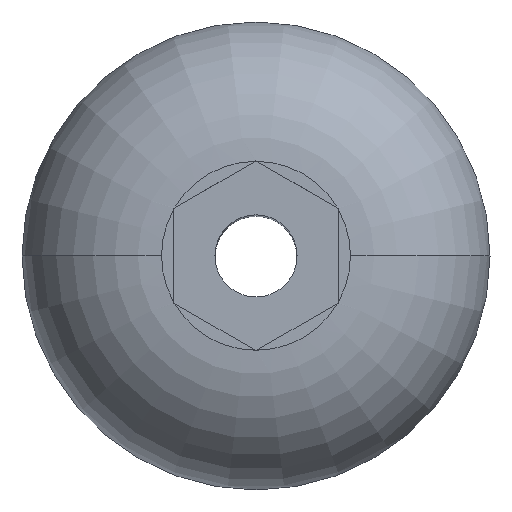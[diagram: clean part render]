
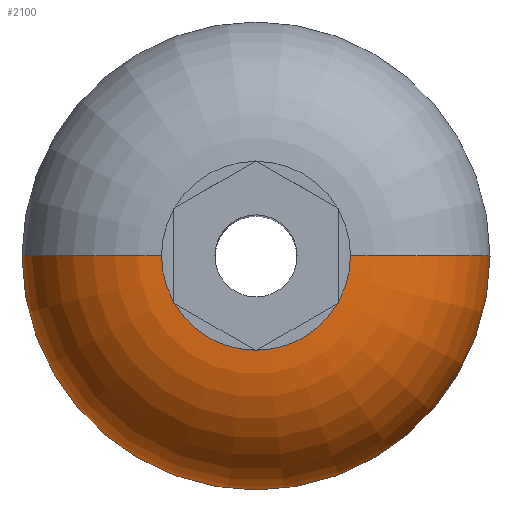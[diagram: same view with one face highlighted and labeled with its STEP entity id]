
A CAD part, top view. The second image highlights one B-rep face of the part: STEP entity #2100.
In plain terms, the highlighted toroidal (fillet/blend) face has major radius 1.151 mm and minor radius 1.7 mm.
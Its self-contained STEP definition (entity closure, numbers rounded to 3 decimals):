
#14 = CARTESIAN_POINT ( 'NONE',  ( 0.993, -0.581, 1.65 ) ) ;
#26 = EDGE_CURVE ( 'NONE', #71, #216, #555, .T. ) ;
#27 = B_SPLINE_CURVE_WITH_KNOTS ( 'NONE', 3,
 ( #1641, #1660, #47, #945, #537 ),
 .UNSPECIFIED., .F., .F.,
 ( 4, 1, 4 ),
 ( 0.014, 0.014, 0.014 ),
 .UNSPECIFIED. ) ;
#30 = ORIENTED_EDGE ( 'NONE', *, *, #2485, .F. ) ;
#32 = VERTEX_POINT ( 'NONE', #1867 ) ;
#42 = EDGE_CURVE ( 'NONE', #235, #1964, #27, .T. ) ;
#46 = CARTESIAN_POINT ( 'NONE',  ( -2.85, 0., 0. ) ) ;
#47 = CARTESIAN_POINT ( 'NONE',  ( -1., -0.573, 1.65 ) ) ;
#63 = DIRECTION ( 'NONE',  ( 1., 0., 0. ) ) ;
#65 = CARTESIAN_POINT ( 'NONE',  ( 0., -1.155, 1.65 ) ) ;
#71 = VERTEX_POINT ( 'NONE', #46 ) ;
#78 = CIRCLE ( 'NONE', #2306, 2.85 ) ;
#113 = DIRECTION ( 'NONE',  ( 1., 0., 0. ) ) ;
#130 = DIRECTION ( 'NONE',  ( 0.866, 0.5, 0. ) ) ;
#153 = ORIENTED_EDGE ( 'NONE', *, *, #1469, .T. ) ;
#171 = AXIS2_PLACEMENT_3D ( 'NONE', #789, #1586, #985 ) ;
#216 = VERTEX_POINT ( 'NONE', #2419 ) ;
#226 = CARTESIAN_POINT ( 'NONE',  ( 0., 0., 1.65 ) ) ;
#235 = VERTEX_POINT ( 'NONE', #1380 ) ;
#239 = CIRCLE ( 'NONE', #2375, 1.151 ) ;
#246 = CARTESIAN_POINT ( 'NONE',  ( 0., 0., 1.65 ) ) ;
#325 = VERTEX_POINT ( 'NONE', #1050 ) ;
#349 = VECTOR ( 'NONE', #130, 1000. ) ;
#364 = AXIS2_PLACEMENT_3D ( 'NONE', #226, #1826, #63 ) ;
#400 = AXIS2_PLACEMENT_3D ( 'NONE', #2151, #1155, #113 ) ;
#441 = EDGE_CURVE ( 'NONE', #216, #1964, #1771, .T. ) ;
#445 = CARTESIAN_POINT ( 'NONE',  ( 0.998, -0.579, 1.65 ) ) ;
#470 = CARTESIAN_POINT ( 'NONE',  ( -0.007, -1.151, 1.65 ) ) ;
#490 = EDGE_LOOP ( 'NONE', ( #2201, #1598, #153, #2258, #913, #1194, #2570, #1570, #877, #600, #30, #2204, #1821 ) ) ;
#494 = CARTESIAN_POINT ( 'NONE',  ( 0.993, -0.581, 1.65 ) ) ;
#495 = CARTESIAN_POINT ( 'NONE',  ( -0.007, -1.151, 1.65 ) ) ;
#537 = CARTESIAN_POINT ( 'NONE',  ( -1., -0.569, 1.65 ) ) ;
#545 = VERTEX_POINT ( 'NONE', #14 ) ;
#555 = CIRCLE ( 'NONE', #1616, 1.7 ) ;
#564 = EDGE_CURVE ( 'NONE', #769, #325, #1491, .T. ) ;
#600 = ORIENTED_EDGE ( 'NONE', *, *, #2002, .F. ) ;
#650 = CARTESIAN_POINT ( 'NONE',  ( 0., 0., -0.05 ) ) ;
#659 = VECTOR ( 'NONE', #1126, 1000. ) ;
#693 = CARTESIAN_POINT ( 'NONE',  ( 0.995, -0.58, 1.65 ) ) ;
#710 = EDGE_CURVE ( 'NONE', #1373, #2322, #1562, .T. ) ;
#724 = CARTESIAN_POINT ( 'NONE',  ( 0., -1.155, 1.65 ) ) ;
#751 = VERTEX_POINT ( 'NONE', #1963 ) ;
#765 = TOROIDAL_SURFACE ( 'NONE', #1721, 1.151, 1.7 ) ;
#769 = VERTEX_POINT ( 'NONE', #936 ) ;
#789 = CARTESIAN_POINT ( 'NONE',  ( 1.151, 0., -0.05 ) ) ;
#855 = CARTESIAN_POINT ( 'NONE',  ( 1., -0.577, 1.65 ) ) ;
#877 = ORIENTED_EDGE ( 'NONE', *, *, #1058, .T. ) ;
#895 = CIRCLE ( 'NONE', #171, 1.7 ) ;
#901 = CARTESIAN_POINT ( 'NONE',  ( 1., -0.577, 1.65 ) ) ;
#913 = ORIENTED_EDGE ( 'NONE', *, *, #564, .F. ) ;
#936 = CARTESIAN_POINT ( 'NONE',  ( 1., -0.577, 1.65 ) ) ;
#945 = CARTESIAN_POINT ( 'NONE',  ( -1., -0.571, 1.65 ) ) ;
#962 = DIRECTION ( 'NONE',  ( 0.866, -0.5, 0. ) ) ;
#985 = DIRECTION ( 'NONE',  ( 0., 0., -1. ) ) ;
#1013 = AXIS2_PLACEMENT_3D ( 'NONE', #246, #2496, #2064 ) ;
#1045 = DIRECTION ( 'NONE',  ( 0., 1., 0. ) ) ;
#1050 = CARTESIAN_POINT ( 'NONE',  ( 1., -0.569, 1.65 ) ) ;
#1058 = EDGE_CURVE ( 'NONE', #1373, #1192, #1449, .T. ) ;
#1088 = CARTESIAN_POINT ( 'NONE',  ( -0.002, -1.153, 1.65 ) ) ;
#1103 = DIRECTION ( 'NONE',  ( 0., 0., 1. ) ) ;
#1104 = DIRECTION ( 'NONE',  ( 1., 0., 0. ) ) ;
#1126 = DIRECTION ( 'NONE',  ( 0., 1., 0. ) ) ;
#1135 = EDGE_CURVE ( 'NONE', #71, #32, #78, .T. ) ;
#1155 = DIRECTION ( 'NONE',  ( 0., 0., 1. ) ) ;
#1192 = VERTEX_POINT ( 'NONE', #495 ) ;
#1194 = ORIENTED_EDGE ( 'NONE', *, *, #2143, .T. ) ;
#1238 = CARTESIAN_POINT ( 'NONE',  ( 0.007, -1.151, 1.65 ) ) ;
#1290 = EDGE_CURVE ( 'NONE', #325, #2622, #1805, .T. ) ;
#1344 = CARTESIAN_POINT ( 'NONE',  ( -1., -0.577, 1.65 ) ) ;
#1373 = VERTEX_POINT ( 'NONE', #1579 ) ;
#1380 = CARTESIAN_POINT ( 'NONE',  ( -1., -0.577, 1.65 ) ) ;
#1449 = B_SPLINE_CURVE_WITH_KNOTS ( 'NONE', 3,
 ( #65, #1088, #1687, #470 ),
 .UNSPECIFIED., .F., .F.,
 ( 4, 4 ),
 ( 0., 0. ),
 .UNSPECIFIED. ) ;
#1456 = CARTESIAN_POINT ( 'NONE',  ( -1.151, 0., -0.05 ) ) ;
#1468 = B_SPLINE_CURVE_WITH_KNOTS ( 'NONE', 3,
 ( #855, #445, #693, #494 ),
 .UNSPECIFIED., .F., .F.,
 ( 4, 4 ),
 ( 0., 0. ),
 .UNSPECIFIED. ) ;
#1469 = EDGE_CURVE ( 'NONE', #32, #2622, #895, .T. ) ;
#1491 = LINE ( 'NONE', #901, #659 ) ;
#1542 = CARTESIAN_POINT ( 'NONE',  ( 0., 0., 1.65 ) ) ;
#1544 = CARTESIAN_POINT ( 'NONE',  ( 0., 0., 0. ) ) ;
#1562 = LINE ( 'NONE', #724, #349 ) ;
#1570 = ORIENTED_EDGE ( 'NONE', *, *, #710, .F. ) ;
#1579 = CARTESIAN_POINT ( 'NONE',  ( 0., -1.155, 1.65 ) ) ;
#1586 = DIRECTION ( 'NONE',  ( 0., -1., 0. ) ) ;
#1598 = ORIENTED_EDGE ( 'NONE', *, *, #1135, .T. ) ;
#1616 = AXIS2_PLACEMENT_3D ( 'NONE', #1456, #1045, #2276 ) ;
#1641 = CARTESIAN_POINT ( 'NONE',  ( -1., -0.577, 1.65 ) ) ;
#1650 = FACE_OUTER_BOUND ( 'NONE', #490, .T. ) ;
#1660 = CARTESIAN_POINT ( 'NONE',  ( -1., -0.576, 1.65 ) ) ;
#1687 = CARTESIAN_POINT ( 'NONE',  ( -0.005, -1.152, 1.65 ) ) ;
#1721 = AXIS2_PLACEMENT_3D ( 'NONE', #650, #2520, #1104 ) ;
#1771 = CIRCLE ( 'NONE', #1013, 1.151 ) ;
#1805 = CIRCLE ( 'NONE', #400, 1.151 ) ;
#1821 = ORIENTED_EDGE ( 'NONE', *, *, #441, .F. ) ;
#1826 = DIRECTION ( 'NONE',  ( 0., 0., 1. ) ) ;
#1867 = CARTESIAN_POINT ( 'NONE',  ( 2.85, 0., 0. ) ) ;
#1889 = VECTOR ( 'NONE', #962, 1000. ) ;
#1952 = DIRECTION ( 'NONE',  ( 1., 0., 0. ) ) ;
#1963 = CARTESIAN_POINT ( 'NONE',  ( -0.993, -0.581, 1.65 ) ) ;
#1964 = VERTEX_POINT ( 'NONE', #2254 ) ;
#2002 = EDGE_CURVE ( 'NONE', #751, #1192, #2606, .T. ) ;
#2020 = CARTESIAN_POINT ( 'NONE',  ( 1.151, 0., 1.65 ) ) ;
#2064 = DIRECTION ( 'NONE',  ( 1., 0., 0. ) ) ;
#2100 = ADVANCED_FACE ( 'NONE', ( #1650 ), #765, .T. ) ;
#2143 = EDGE_CURVE ( 'NONE', #769, #545, #1468, .T. ) ;
#2151 = CARTESIAN_POINT ( 'NONE',  ( 0., 0., 1.65 ) ) ;
#2169 = DIRECTION ( 'NONE',  ( 1., 0., 0. ) ) ;
#2201 = ORIENTED_EDGE ( 'NONE', *, *, #26, .F. ) ;
#2204 = ORIENTED_EDGE ( 'NONE', *, *, #42, .T. ) ;
#2254 = CARTESIAN_POINT ( 'NONE',  ( -1., -0.569, 1.65 ) ) ;
#2258 = ORIENTED_EDGE ( 'NONE', *, *, #1290, .F. ) ;
#2276 = DIRECTION ( 'NONE',  ( -1., 0., 0. ) ) ;
#2306 = AXIS2_PLACEMENT_3D ( 'NONE', #1544, #2539, #1952 ) ;
#2322 = VERTEX_POINT ( 'NONE', #1238 ) ;
#2375 = AXIS2_PLACEMENT_3D ( 'NONE', #1542, #1103, #2169 ) ;
#2419 = CARTESIAN_POINT ( 'NONE',  ( -1.151, 0., 1.65 ) ) ;
#2453 = EDGE_CURVE ( 'NONE', #2322, #545, #239, .T. ) ;
#2485 = EDGE_CURVE ( 'NONE', #235, #751, #2507, .T. ) ;
#2496 = DIRECTION ( 'NONE',  ( 0., 0., 1. ) ) ;
#2507 = LINE ( 'NONE', #1344, #1889 ) ;
#2520 = DIRECTION ( 'NONE',  ( 0., 0., 1. ) ) ;
#2539 = DIRECTION ( 'NONE',  ( 0., 0., 1. ) ) ;
#2570 = ORIENTED_EDGE ( 'NONE', *, *, #2453, .F. ) ;
#2606 = CIRCLE ( 'NONE', #364, 1.151 ) ;
#2622 = VERTEX_POINT ( 'NONE', #2020 ) ;
